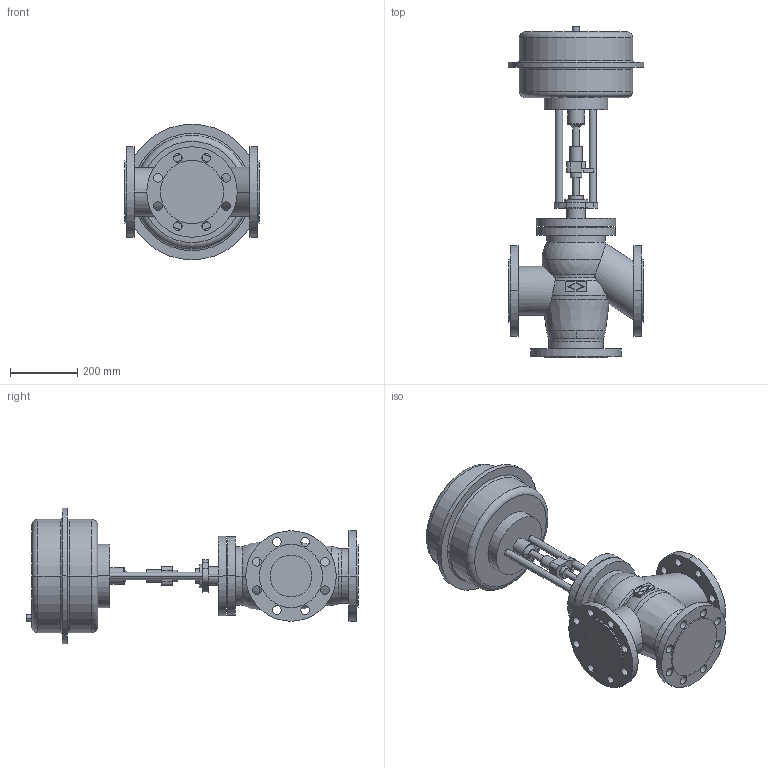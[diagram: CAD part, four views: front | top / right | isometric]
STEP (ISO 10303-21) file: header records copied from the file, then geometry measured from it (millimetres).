
FILE_DESCRIPTION(('OneSpaceDesigner STEP Export'),'2;1');
FILE_NAME('c000000697.stp','2006-09-19T10:19:15',(''),(''),'OneSpace Designer STEP processor for AP214 (Solid Model)','OneSpace Designer 13.20A 18-Aug-2005 (C) CoCreate Software GmbH','');
FILE_SCHEMA(('AUTOMOTIVE_DESIGN { 1 0 10303 214 1 1 1 1 }'));
Length unit declared in the file: millimetre
Products named in the file (2): 1; 2
Bounding box: 405 x 991 x 405 mm (x, y, z)
Volume: 38479219 mm3; surface area: 1345269.8 mm2
Topology: 2 solids, 2 shells, 214 faces, 535 edges, 347 vertices
Faces by surface type: cylinder 116, plane 68, torus 18, sphere 8, cone 4
Entity records: 5850 total; most frequent: CARTESIAN_POINT 1201, ORIENTED_EDGE 1054, DIRECTION 826, EDGE_CURVE 527, VERTEX_POINT 347, AXIS2_PLACEMENT_3D 309, EDGE_LOOP 292, FACE_OUTER_BOUND 214
